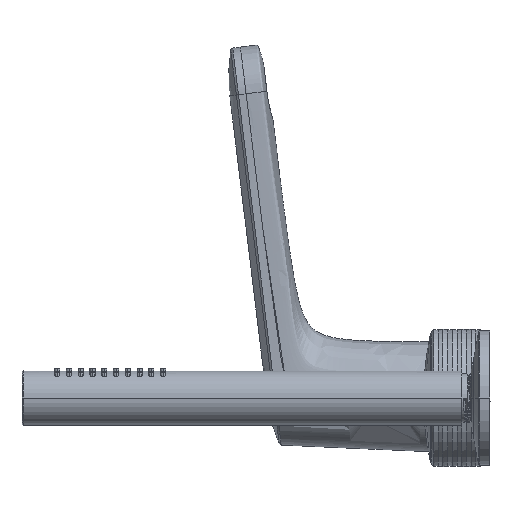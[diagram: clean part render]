
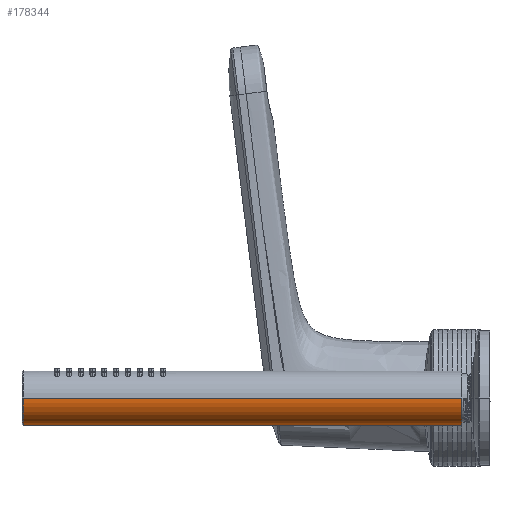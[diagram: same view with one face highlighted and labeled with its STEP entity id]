
A CAD part, left-side view. The second image highlights one B-rep face of the part: STEP entity #178344.
In plain terms, the highlighted cylindrical face has radius 11.5 mm (diameter 23 mm), a partial arc.
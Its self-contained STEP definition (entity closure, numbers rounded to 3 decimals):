
#172417=DIRECTION('',(0.,1.,0.));
#172418=VECTOR('',#172417,186.5);
#172419=CARTESIAN_POINT('',(-251.5,12.,0.));
#172420=LINE('',#172419,#172418);
#174561=CARTESIAN_POINT('',(-240.,198.5,0.));
#174562=DIRECTION('',(0.,1.,0.));
#174563=DIRECTION('',(1.,0.,0.));
#174564=AXIS2_PLACEMENT_3D('',#174561,#174562,#174563);
#174566=DIRECTION('',(0.,1.,0.));
#174567=VECTOR('',#174566,186.5);
#174568=CARTESIAN_POINT('',(-228.5,12.,0.));
#174569=LINE('',#174568,#174567);
#174575=CARTESIAN_POINT('',(-240.,12.,0.));
#174576=DIRECTION('',(0.,1.,0.));
#174577=DIRECTION('',(1.,0.,0.));
#174578=AXIS2_PLACEMENT_3D('',#174575,#174576,#174577);
#177722=CARTESIAN_POINT('',(-251.5,12.,0.));
#177723=CARTESIAN_POINT('',(-228.5,12.,0.));
#177724=VERTEX_POINT('',#177722);
#177725=VERTEX_POINT('',#177723);
#178007=CARTESIAN_POINT('',(-228.5,198.5,0.));
#178008=CARTESIAN_POINT('',(-251.5,198.5,0.));
#178009=VERTEX_POINT('',#178007);
#178010=VERTEX_POINT('',#178008);
#178332=CARTESIAN_POINT('',(-240.,12.,0.));
#178333=DIRECTION('',(0.,1.,0.));
#178334=DIRECTION('',(-1.,0.,0.));
#178335=AXIS2_PLACEMENT_3D('',#178332,#178333,#178334);
#178336=CYLINDRICAL_SURFACE('',#178335,11.5);
#178337=ORIENTED_EDGE('',*,*,#178326,.T.);
#178338=ORIENTED_EDGE('',*,*,#178049,.F.);
#178340=ORIENTED_EDGE('',*,*,#178339,.F.);
#178341=ORIENTED_EDGE('',*,*,#178045,.T.);
#178342=EDGE_LOOP('',(#178337,#178338,#178340,#178341));
#178343=FACE_OUTER_BOUND('',#178342,.F.);
#178344=ADVANCED_FACE('',(#178343),#178336,.T.);
#174565=CIRCLE('',#174564,11.5);
#174579=CIRCLE('',#174578,11.5);
#178045=EDGE_CURVE('',#177725,#178009,#174569,.T.);
#178049=EDGE_CURVE('',#177724,#178010,#172420,.T.);
#178326=EDGE_CURVE('',#178009,#178010,#174565,.T.);
#178339=EDGE_CURVE('',#177725,#177724,#174579,.T.);
